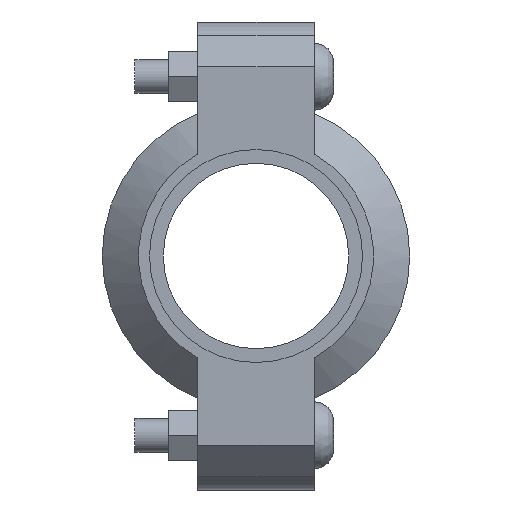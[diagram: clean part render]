
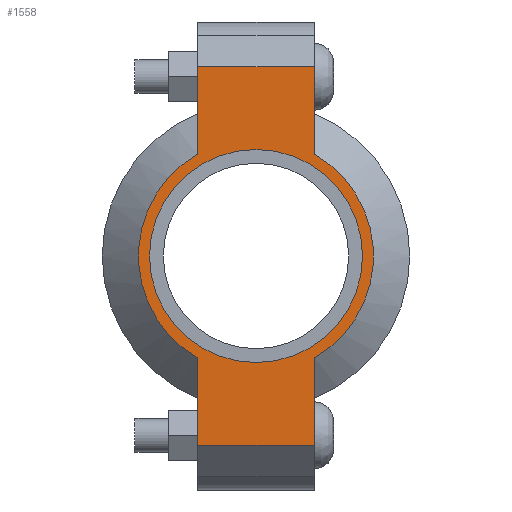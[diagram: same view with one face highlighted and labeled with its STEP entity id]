
A CAD part, left-side view. The second image highlights one B-rep face of the part: STEP entity #1558.
In plain terms, the highlighted planar face has unit normal (-1, 0, 0) as drawn and (0, 0, 1) by its records, which use the part's own axes.
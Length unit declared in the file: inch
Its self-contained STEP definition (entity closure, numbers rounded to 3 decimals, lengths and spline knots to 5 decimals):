
#182=LINE('',#2719,#275);
#190=LINE('',#2755,#283);
#197=LINE('',#2776,#290);
#206=LINE('',#2808,#299);
#207=LINE('',#2812,#300);
#208=LINE('',#2814,#301);
#275=VECTOR('',#2215,0.3937);
#283=VECTOR('',#2231,0.3937);
#290=VECTOR('',#2250,0.3937);
#299=VECTOR('',#2275,0.3937);
#300=VECTOR('',#2280,0.3937);
#301=VECTOR('',#2281,0.3937);
#357=FACE_BOUND('',#535,.T.);
#429=FACE_OUTER_BOUND('',#534,.T.);
#534=EDGE_LOOP('',(#1299,#1300,#1301,#1302,#1303,#1304,#1305,#1306));
#535=EDGE_LOOP('',(#1307));
#607=CIRCLE('',#1777,1.1875);
#633=CIRCLE('',#1836,1.31);
#634=CIRCLE('',#1837,1.31);
#699=VERTEX_POINT('',#2535);
#742=VERTEX_POINT('',#2716);
#743=VERTEX_POINT('',#2718);
#754=VERTEX_POINT('',#2750);
#755=VERTEX_POINT('',#2754);
#762=VERTEX_POINT('',#2773);
#763=VERTEX_POINT('',#2775);
#773=VERTEX_POINT('',#2811);
#774=VERTEX_POINT('',#2813);
#855=EDGE_CURVE('',#699,#699,#607,.T.);
#916=EDGE_CURVE('',#743,#742,#182,.T.);
#930=EDGE_CURVE('',#755,#754,#190,.T.);
#940=EDGE_CURVE('',#763,#762,#197,.T.);
#955=EDGE_CURVE('',#755,#742,#206,.T.);
#956=EDGE_CURVE('',#754,#763,#633,.T.);
#957=EDGE_CURVE('',#773,#762,#207,.T.);
#958=EDGE_CURVE('',#773,#774,#208,.T.);
#959=EDGE_CURVE('',#774,#743,#634,.T.);
#1299=ORIENTED_EDGE('',*,*,#955,.F.);
#1300=ORIENTED_EDGE('',*,*,#930,.T.);
#1301=ORIENTED_EDGE('',*,*,#956,.T.);
#1302=ORIENTED_EDGE('',*,*,#940,.T.);
#1303=ORIENTED_EDGE('',*,*,#957,.F.);
#1304=ORIENTED_EDGE('',*,*,#958,.T.);
#1305=ORIENTED_EDGE('',*,*,#959,.T.);
#1306=ORIENTED_EDGE('',*,*,#916,.T.);
#1307=ORIENTED_EDGE('',*,*,#855,.T.);
#1400=PLANE('',#1835);
#1558=ADVANCED_FACE('',(#429,#357),#1400,.T.);
#1777=AXIS2_PLACEMENT_3D('',#2537,#2091,#2092);
#1835=AXIS2_PLACEMENT_3D('',#2809,#2276,#2277);
#1836=AXIS2_PLACEMENT_3D('',#2810,#2278,#2279);
#1837=AXIS2_PLACEMENT_3D('',#2815,#2282,#2283);
#2091=DIRECTION('center_axis',(0.,0.,-1.));
#2092=DIRECTION('ref_axis',(-1.,0.,0.));
#2215=DIRECTION('',(-1.,0.,0.));
#2231=DIRECTION('',(1.,0.,0.));
#2250=DIRECTION('',(1.,0.,0.));
#2275=DIRECTION('',(0.,1.,0.));
#2276=DIRECTION('center_axis',(0.,0.,1.));
#2277=DIRECTION('ref_axis',(1.,0.,0.));
#2278=DIRECTION('center_axis',(0.,0.,1.));
#2279=DIRECTION('ref_axis',(-1.,0.,0.));
#2280=DIRECTION('',(0.,-1.,0.));
#2281=DIRECTION('',(-1.,0.,0.));
#2282=DIRECTION('center_axis',(0.,0.,1.));
#2283=DIRECTION('ref_axis',(-1.,0.,0.));
#2535=CARTESIAN_POINT('',(1.1875,0.,0.94));
#2537=CARTESIAN_POINT('Origin',(0.,0.,0.94));
#2716=CARTESIAN_POINT('',(-2.11,0.65,0.94));
#2718=CARTESIAN_POINT('',(-1.13737,0.65,0.94));
#2719=CARTESIAN_POINT('',(-2.61,0.65,0.94));
#2750=CARTESIAN_POINT('',(-1.13737,-0.65,0.94));
#2754=CARTESIAN_POINT('',(-2.11,-0.65,0.94));
#2755=CARTESIAN_POINT('',(2.61,-0.65,0.94));
#2773=CARTESIAN_POINT('',(2.11,-0.65,0.94));
#2775=CARTESIAN_POINT('',(1.13737,-0.65,0.94));
#2776=CARTESIAN_POINT('',(2.61,-0.65,0.94));
#2808=CARTESIAN_POINT('',(-2.11,0.325,0.94));
#2809=CARTESIAN_POINT('Origin',(0.,0.,0.94));
#2810=CARTESIAN_POINT('Origin',(0.,0.,0.94));
#2811=CARTESIAN_POINT('',(2.11,0.65,0.94));
#2812=CARTESIAN_POINT('',(2.11,-0.325,0.94));
#2813=CARTESIAN_POINT('',(1.13737,0.65,0.94));
#2814=CARTESIAN_POINT('',(-2.61,0.65,0.94));
#2815=CARTESIAN_POINT('Origin',(0.,0.,0.94));
